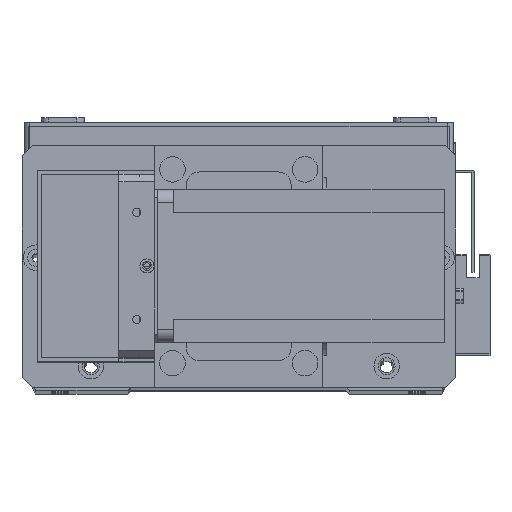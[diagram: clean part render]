
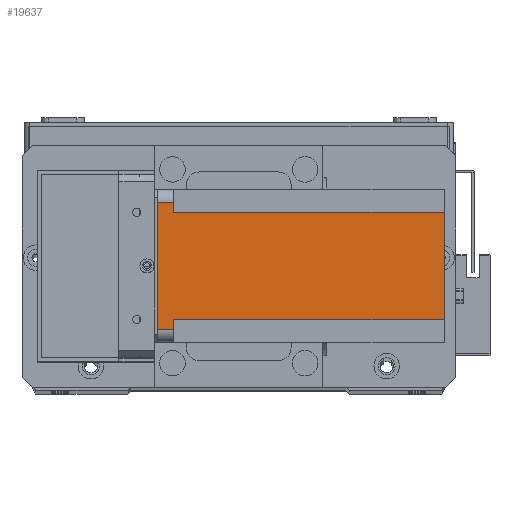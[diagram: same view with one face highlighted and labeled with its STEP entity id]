
A CAD part, top view. The second image highlights one B-rep face of the part: STEP entity #19637.
In plain terms, the highlighted planar face has unit normal (0, 0, 1) as drawn and (-1, 0, 0) by its records, which use the part's own axes.
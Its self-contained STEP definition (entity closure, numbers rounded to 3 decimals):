
#30 = CARTESIAN_POINT ( 'NONE',  ( 0., 0., -6.5 ) ) ;
#509 = VERTEX_POINT ( 'NONE', #1612 ) ;
#609 = EDGE_LOOP ( 'NONE', ( #2974, #4391, #9530, #17045, #11517, #15923, #8988, #4613 ) ) ;
#720 = LINE ( 'NONE', #30, #25044 ) ;
#856 = CARTESIAN_POINT ( 'NONE',  ( 0., 9., -112.5 ) ) ;
#870 = LINE ( 'NONE', #24954, #25961 ) ;
#1186 = VERTEX_POINT ( 'NONE', #23764 ) ;
#1321 = VECTOR ( 'NONE', #5230, 1000. ) ;
#1612 = CARTESIAN_POINT ( 'NONE',  ( 0., 51., -112.5 ) ) ;
#1911 = VERTEX_POINT ( 'NONE', #856 ) ;
#2432 = DIRECTION ( 'NONE',  ( 0., 1., 0. ) ) ;
#2974 = ORIENTED_EDGE ( 'NONE', *, *, #31327, .F. ) ;
#2975 = DIRECTION ( 'NONE',  ( 0., -1., 0. ) ) ;
#3041 = DIRECTION ( 'NONE',  ( 0., -1., 0. ) ) ;
#3670 = LINE ( 'NONE', #11554, #29583 ) ;
#4391 = ORIENTED_EDGE ( 'NONE', *, *, #25839, .T. ) ;
#4613 = ORIENTED_EDGE ( 'NONE', *, *, #27607, .F. ) ;
#5011 = DIRECTION ( 'NONE',  ( 0., 0., 1. ) ) ;
#5230 = DIRECTION ( 'NONE',  ( 0., 1., 0. ) ) ;
#6142 = EDGE_CURVE ( 'NONE', #509, #16435, #22975, .T. ) ;
#8530 = DIRECTION ( 'NONE',  ( -1., 0., 0. ) ) ;
#8568 = DIRECTION ( 'NONE',  ( 0., 0., -1. ) ) ;
#8988 = ORIENTED_EDGE ( 'NONE', *, *, #16547, .T. ) ;
#9109 = VECTOR ( 'NONE', #29477, 1000. ) ;
#9530 = ORIENTED_EDGE ( 'NONE', *, *, #24265, .F. ) ;
#10002 = VECTOR ( 'NONE', #5011, 1000. ) ;
#10885 = CARTESIAN_POINT ( 'NONE',  ( 0., 0., -112.5 ) ) ;
#10906 = LINE ( 'NONE', #23192, #16624 ) ;
#11490 = VERTEX_POINT ( 'NONE', #22527 ) ;
#11517 = ORIENTED_EDGE ( 'NONE', *, *, #21371, .F. ) ;
#11554 = CARTESIAN_POINT ( 'NONE',  ( 0., 55., -112.5 ) ) ;
#11840 = EDGE_CURVE ( 'NONE', #23286, #11490, #3670, .T. ) ;
#12253 = VERTEX_POINT ( 'NONE', #22702 ) ;
#15429 = CARTESIAN_POINT ( 'NONE',  ( 0., 55., 0. ) ) ;
#15923 = ORIENTED_EDGE ( 'NONE', *, *, #6142, .F. ) ;
#16352 = LINE ( 'NONE', #22101, #9109 ) ;
#16415 = AXIS2_PLACEMENT_3D ( 'NONE', #10885, #8530, #25577 ) ;
#16435 = VERTEX_POINT ( 'NONE', #29289 ) ;
#16547 = EDGE_CURVE ( 'NONE', #509, #1911, #23630, .T. ) ;
#16624 = VECTOR ( 'NONE', #8568, 1000. ) ;
#17045 = ORIENTED_EDGE ( 'NONE', *, *, #11840, .T. ) ;
#17143 = VECTOR ( 'NONE', #2975, 1000. ) ;
#17548 = CARTESIAN_POINT ( 'NONE',  ( 0., 0., -112.5 ) ) ;
#18229 = PLANE ( 'NONE',  #16415 ) ;
#19637 = ADVANCED_FACE ( 'NONE', ( #27680 ), #18229, .T. ) ;
#19937 = LINE ( 'NONE', #24797, #1321 ) ;
#20194 = VERTEX_POINT ( 'NONE', #30356 ) ;
#21371 = EDGE_CURVE ( 'NONE', #16435, #11490, #19937, .T. ) ;
#22051 = CARTESIAN_POINT ( 'NONE',  ( 0., 51., -112.5 ) ) ;
#22101 = CARTESIAN_POINT ( 'NONE',  ( 0., 5., -112.5 ) ) ;
#22527 = CARTESIAN_POINT ( 'NONE',  ( 0., 55., -6.5 ) ) ;
#22702 = CARTESIAN_POINT ( 'NONE',  ( 0., 9., -6.5 ) ) ;
#22975 = LINE ( 'NONE', #22051, #10002 ) ;
#23192 = CARTESIAN_POINT ( 'NONE',  ( 0., 9., -112.5 ) ) ;
#23286 = VERTEX_POINT ( 'NONE', #15429 ) ;
#23630 = LINE ( 'NONE', #17548, #17143 ) ;
#23764 = CARTESIAN_POINT ( 'NONE',  ( 0., 5., -6.5 ) ) ;
#24265 = EDGE_CURVE ( 'NONE', #23286, #20194, #870, .T. ) ;
#24797 = CARTESIAN_POINT ( 'NONE',  ( 0., 60., -6.5 ) ) ;
#24954 = CARTESIAN_POINT ( 'NONE',  ( 0., 0., 0. ) ) ;
#25044 = VECTOR ( 'NONE', #2432, 1000. ) ;
#25577 = DIRECTION ( 'NONE',  ( 0., -1., 0. ) ) ;
#25839 = EDGE_CURVE ( 'NONE', #1186, #20194, #16352, .T. ) ;
#25961 = VECTOR ( 'NONE', #3041, 1000. ) ;
#26118 = DIRECTION ( 'NONE',  ( 0., 0., -1. ) ) ;
#27607 = EDGE_CURVE ( 'NONE', #12253, #1911, #10906, .T. ) ;
#27680 = FACE_OUTER_BOUND ( 'NONE', #609, .T. ) ;
#29289 = CARTESIAN_POINT ( 'NONE',  ( 0., 51., -6.5 ) ) ;
#29477 = DIRECTION ( 'NONE',  ( 0., 0., 1. ) ) ;
#29583 = VECTOR ( 'NONE', #26118, 1000. ) ;
#30356 = CARTESIAN_POINT ( 'NONE',  ( 0., 5., 0. ) ) ;
#31327 = EDGE_CURVE ( 'NONE', #1186, #12253, #720, .T. ) ;
